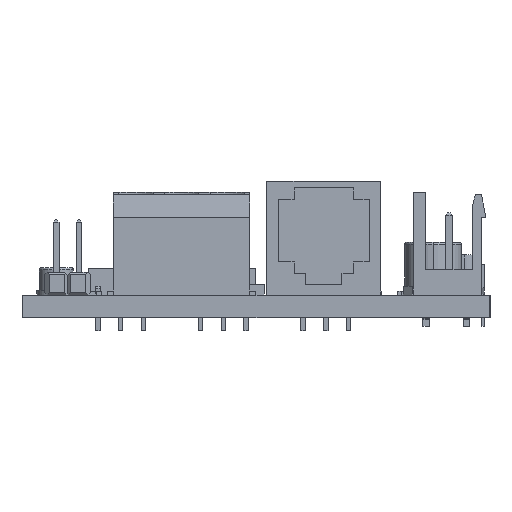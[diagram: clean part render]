
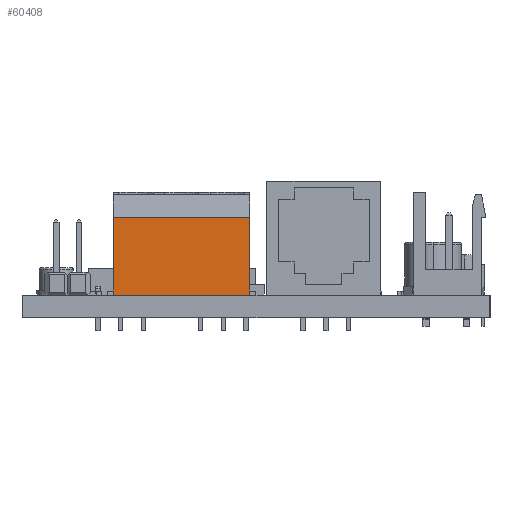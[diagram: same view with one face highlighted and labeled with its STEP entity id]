
A CAD part, left-side view. The second image highlights one B-rep face of the part: STEP entity #60408.
In plain terms, the highlighted planar face has unit normal (-1, 0, 0) as drawn and (0, 1, 0) by its records, which use the part's own axes.
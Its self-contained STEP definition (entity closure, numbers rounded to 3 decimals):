
#59364 = PLANE('',#59365);
#59365 = AXIS2_PLACEMENT_3D('',#59366,#59367,#59368);
#59366 = CARTESIAN_POINT('',(-2.54,0.,11.43));
#59367 = DIRECTION('',(1.,0.,0.));
#59368 = DIRECTION('',(0.,0.,-1.));
#59600 = PLANE('',#59601);
#59601 = AXIS2_PLACEMENT_3D('',#59602,#59603,#59604);
#59602 = CARTESIAN_POINT('',(12.7,0.,11.43));
#59603 = DIRECTION('',(1.,0.,0.));
#59604 = DIRECTION('',(0.,0.,-1.));
#60299 = PLANE('',#60300);
#60300 = AXIS2_PLACEMENT_3D('',#60301,#60302,#60303);
#60301 = CARTESIAN_POINT('',(12.7,0.,0.));
#60302 = DIRECTION('',(0.,0.,1.));
#60303 = DIRECTION('',(1.,0.,0.));
#60337 = VERTEX_POINT('',#60338);
#60338 = CARTESIAN_POINT('',(-2.54,7.62,0.));
#60359 = EDGE_CURVE('',#60360,#60337,#60362,.T.);
#60360 = VERTEX_POINT('',#60361);
#60361 = CARTESIAN_POINT('',(12.7,7.62,0.));
#60362 = SURFACE_CURVE('',#60363,(#60367,#60374),.PCURVE_S1.);
#60363 = LINE('',#60364,#60365);
#60364 = CARTESIAN_POINT('',(12.7,7.62,0.));
#60365 = VECTOR('',#60366,1.);
#60366 = DIRECTION('',(-1.,0.,0.));
#60367 = PCURVE('',#60299,#60368);
#60368 = DEFINITIONAL_REPRESENTATION('',(#60369),#60373);
#60369 = LINE('',#60370,#60371);
#60370 = CARTESIAN_POINT('',(0.,7.62));
#60371 = VECTOR('',#60372,1.);
#60372 = DIRECTION('',(-1.,0.));
#60373 = ( GEOMETRIC_REPRESENTATION_CONTEXT(2) 
PARAMETRIC_REPRESENTATION_CONTEXT() REPRESENTATION_CONTEXT('2D SPACE',''
  ) );
#60374 = PCURVE('',#60375,#60380);
#60375 = PLANE('',#60376);
#60376 = AXIS2_PLACEMENT_3D('',#60377,#60378,#60379);
#60377 = CARTESIAN_POINT('',(12.7,7.62,0.));
#60378 = DIRECTION('',(0.,-1.,0.));
#60379 = DIRECTION('',(0.,0.,-1.));
#60380 = DEFINITIONAL_REPRESENTATION('',(#60381),#60385);
#60381 = LINE('',#60382,#60383);
#60382 = CARTESIAN_POINT('',(0.,0.));
#60383 = VECTOR('',#60384,1.);
#60384 = DIRECTION('',(0.,-1.));
#60385 = ( GEOMETRIC_REPRESENTATION_CONTEXT(2) 
PARAMETRIC_REPRESENTATION_CONTEXT() REPRESENTATION_CONTEXT('2D SPACE',''
  ) );
#60408 = ADVANCED_FACE('',(#60409),#60375,.F.);
#60409 = FACE_BOUND('',#60410,.T.);
#60410 = EDGE_LOOP('',(#60411,#60434,#60462,#60483));
#60411 = ORIENTED_EDGE('',*,*,#60412,.T.);
#60412 = EDGE_CURVE('',#60337,#60413,#60415,.T.);
#60413 = VERTEX_POINT('',#60414);
#60414 = CARTESIAN_POINT('',(-2.54,7.62,8.64));
#60415 = SURFACE_CURVE('',#60416,(#60420,#60427),.PCURVE_S1.);
#60416 = LINE('',#60417,#60418);
#60417 = CARTESIAN_POINT('',(-2.54,7.62,0.));
#60418 = VECTOR('',#60419,1.);
#60419 = DIRECTION('',(0.,0.,1.));
#60420 = PCURVE('',#60375,#60421);
#60421 = DEFINITIONAL_REPRESENTATION('',(#60422),#60426);
#60422 = LINE('',#60423,#60424);
#60423 = CARTESIAN_POINT('',(0.,-15.24));
#60424 = VECTOR('',#60425,1.);
#60425 = DIRECTION('',(-1.,0.));
#60426 = ( GEOMETRIC_REPRESENTATION_CONTEXT(2) 
PARAMETRIC_REPRESENTATION_CONTEXT() REPRESENTATION_CONTEXT('2D SPACE',''
  ) );
#60427 = PCURVE('',#59364,#60428);
#60428 = DEFINITIONAL_REPRESENTATION('',(#60429),#60433);
#60429 = LINE('',#60430,#60431);
#60430 = CARTESIAN_POINT('',(11.43,7.62));
#60431 = VECTOR('',#60432,1.);
#60432 = DIRECTION('',(-1.,0.));
#60433 = ( GEOMETRIC_REPRESENTATION_CONTEXT(2) 
PARAMETRIC_REPRESENTATION_CONTEXT() REPRESENTATION_CONTEXT('2D SPACE',''
  ) );
#60434 = ORIENTED_EDGE('',*,*,#60435,.F.);
#60435 = EDGE_CURVE('',#60436,#60413,#60438,.T.);
#60436 = VERTEX_POINT('',#60437);
#60437 = CARTESIAN_POINT('',(12.7,7.62,8.64));
#60438 = SURFACE_CURVE('',#60439,(#60443,#60450),.PCURVE_S1.);
#60439 = LINE('',#60440,#60441);
#60440 = CARTESIAN_POINT('',(12.7,7.62,8.64));
#60441 = VECTOR('',#60442,1.);
#60442 = DIRECTION('',(-1.,0.,0.));
#60443 = PCURVE('',#60375,#60444);
#60444 = DEFINITIONAL_REPRESENTATION('',(#60445),#60449);
#60445 = LINE('',#60446,#60447);
#60446 = CARTESIAN_POINT('',(-8.64,0.));
#60447 = VECTOR('',#60448,1.);
#60448 = DIRECTION('',(0.,-1.));
#60449 = ( GEOMETRIC_REPRESENTATION_CONTEXT(2) 
PARAMETRIC_REPRESENTATION_CONTEXT() REPRESENTATION_CONTEXT('2D SPACE',''
  ) );
#60450 = PCURVE('',#60451,#60456);
#60451 = PLANE('',#60452);
#60452 = AXIS2_PLACEMENT_3D('',#60453,#60454,#60455);
#60453 = CARTESIAN_POINT('',(12.7,7.62,8.64));
#60454 = DIRECTION('',(0.,0.,1.));
#60455 = DIRECTION('',(1.,0.,0.));
#60456 = DEFINITIONAL_REPRESENTATION('',(#60457),#60461);
#60457 = LINE('',#60458,#60459);
#60458 = CARTESIAN_POINT('',(0.,0.));
#60459 = VECTOR('',#60460,1.);
#60460 = DIRECTION('',(-1.,0.));
#60461 = ( GEOMETRIC_REPRESENTATION_CONTEXT(2) 
PARAMETRIC_REPRESENTATION_CONTEXT() REPRESENTATION_CONTEXT('2D SPACE',''
  ) );
#60462 = ORIENTED_EDGE('',*,*,#60463,.F.);
#60463 = EDGE_CURVE('',#60360,#60436,#60464,.T.);
#60464 = SURFACE_CURVE('',#60465,(#60469,#60476),.PCURVE_S1.);
#60465 = LINE('',#60466,#60467);
#60466 = CARTESIAN_POINT('',(12.7,7.62,0.));
#60467 = VECTOR('',#60468,1.);
#60468 = DIRECTION('',(0.,0.,1.));
#60469 = PCURVE('',#60375,#60470);
#60470 = DEFINITIONAL_REPRESENTATION('',(#60471),#60475);
#60471 = LINE('',#60472,#60473);
#60472 = CARTESIAN_POINT('',(0.,0.));
#60473 = VECTOR('',#60474,1.);
#60474 = DIRECTION('',(-1.,0.));
#60475 = ( GEOMETRIC_REPRESENTATION_CONTEXT(2) 
PARAMETRIC_REPRESENTATION_CONTEXT() REPRESENTATION_CONTEXT('2D SPACE',''
  ) );
#60476 = PCURVE('',#59600,#60477);
#60477 = DEFINITIONAL_REPRESENTATION('',(#60478),#60482);
#60478 = LINE('',#60479,#60480);
#60479 = CARTESIAN_POINT('',(11.43,7.62));
#60480 = VECTOR('',#60481,1.);
#60481 = DIRECTION('',(-1.,0.));
#60482 = ( GEOMETRIC_REPRESENTATION_CONTEXT(2) 
PARAMETRIC_REPRESENTATION_CONTEXT() REPRESENTATION_CONTEXT('2D SPACE',''
  ) );
#60483 = ORIENTED_EDGE('',*,*,#60359,.T.);
